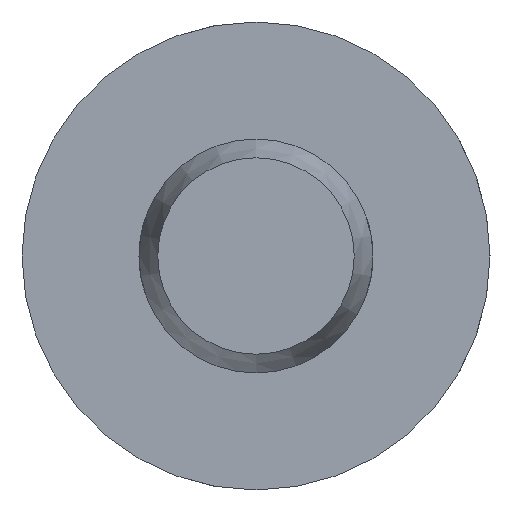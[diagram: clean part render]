
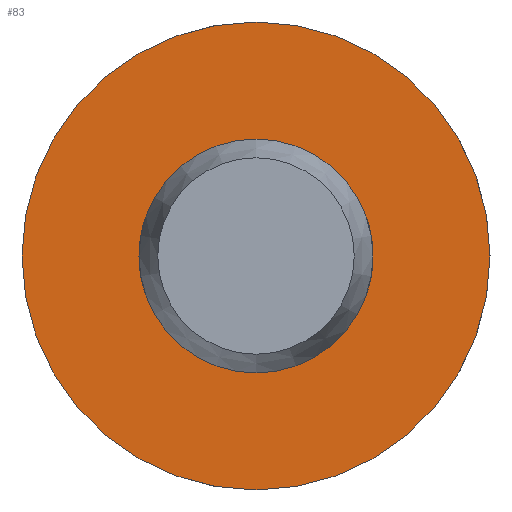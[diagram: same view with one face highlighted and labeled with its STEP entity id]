
A CAD part, left-side view. The second image highlights one B-rep face of the part: STEP entity #83.
In plain terms, the highlighted planar face has unit normal (-1, 0, 0).
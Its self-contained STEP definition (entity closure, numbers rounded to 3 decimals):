
#83 = ADVANCED_FACE( '', ( #129, #130 ), #131, .F. );
#129 = FACE_OUTER_BOUND( '', #208, .T. );
#130 = FACE_BOUND( '', #209, .T. );
#131 = PLANE( '', #210 );
#208 = EDGE_LOOP( '', ( #325 ) );
#209 = EDGE_LOOP( '', ( #326 ) );
#210 = AXIS2_PLACEMENT_3D( '', #327, #328, #329 );
#325 = ORIENTED_EDGE( '', *, *, #493, .F. );
#326 = ORIENTED_EDGE( '', *, *, #483, .T. );
#327 = CARTESIAN_POINT( '', ( 26., 2.5, 0. ) );
#328 = DIRECTION( '', ( 1., 0., 0. ) );
#329 = DIRECTION( '', ( 0., 0., -1. ) );
#483 = EDGE_CURVE( '', #554, #554, #555, .T. );
#493 = EDGE_CURVE( '', #572, #572, #573, .T. );
#554 = VERTEX_POINT( '', #741 );
#555 = CIRCLE( '', #742, 2.5 );
#572 = VERTEX_POINT( '', #842 );
#573 = CIRCLE( '', #843, 5. );
#741 = CARTESIAN_POINT( '', ( 26., 0., -2.5 ) );
#742 = AXIS2_PLACEMENT_3D( '', #906, #907, #908 );
#842 = CARTESIAN_POINT( '', ( 26., 0., -5. ) );
#843 = AXIS2_PLACEMENT_3D( '', #927, #928, #929 );
#906 = CARTESIAN_POINT( '', ( 26., 0., 0. ) );
#907 = DIRECTION( '', ( 1., 0., 0. ) );
#908 = DIRECTION( '', ( 0., 0., -1. ) );
#927 = CARTESIAN_POINT( '', ( 26., 0., 0. ) );
#928 = DIRECTION( '', ( 1., 0., 0. ) );
#929 = DIRECTION( '', ( 0., 0., -1. ) );
